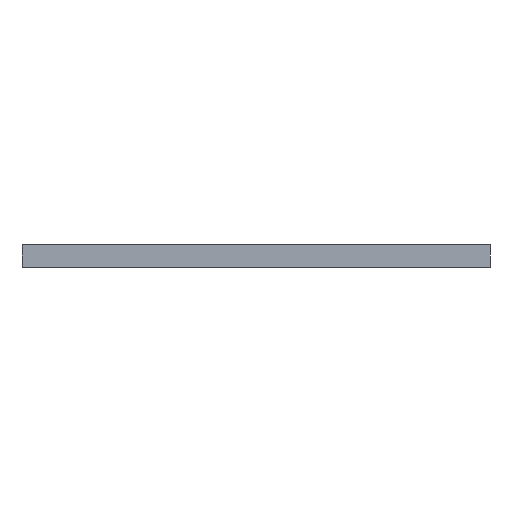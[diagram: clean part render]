
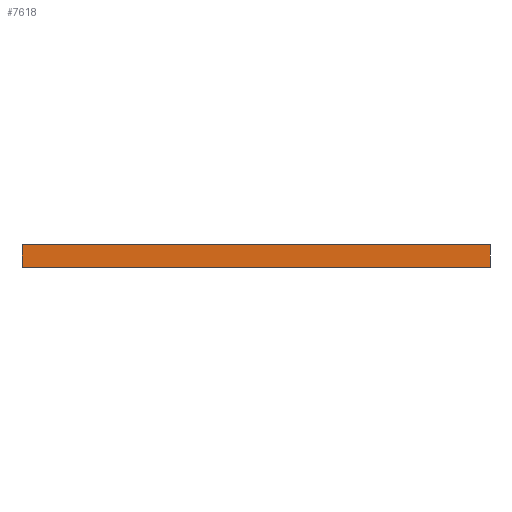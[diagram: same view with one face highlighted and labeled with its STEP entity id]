
A CAD part, front view. The second image highlights one B-rep face of the part: STEP entity #7618.
In plain terms, the highlighted planar face has unit normal (0, -1, 0).
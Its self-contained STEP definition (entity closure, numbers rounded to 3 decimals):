
#21 = EDGE_CURVE('',#22,#24,#26,.T.);
#22 = VERTEX_POINT('',#23);
#23 = CARTESIAN_POINT('',(6.74,14.71,
    0.01));
#24 = VERTEX_POINT('',#25);
#25 = CARTESIAN_POINT('',(6.74,14.71,1.6)
  );
#26 = SURFACE_CURVE('',#27,(#31,#43),.PCURVE_S1.);
#27 = LINE('',#28,#29);
#28 = CARTESIAN_POINT('',(6.74,14.71,
    0.01));
#29 = VECTOR('',#30,1.);
#30 = DIRECTION('',(0.,0.,1.));
#31 = PCURVE('',#32,#37);
#32 = PLANE('',#33);
#33 = AXIS2_PLACEMENT_3D('',#34,#35,#36);
#34 = CARTESIAN_POINT('',(6.74,14.71,
    0.01));
#35 = DIRECTION('',(-1.,0.,0.));
#36 = DIRECTION('',(0.,1.,0.));
#37 = DEFINITIONAL_REPRESENTATION('',(#38),#42);
#38 = LINE('',#39,#40);
#39 = CARTESIAN_POINT('',(0.,0.));
#40 = VECTOR('',#41,1.);
#41 = DIRECTION('',(0.,-1.));
#42 = ( GEOMETRIC_REPRESENTATION_CONTEXT(2) 
PARAMETRIC_REPRESENTATION_CONTEXT() REPRESENTATION_CONTEXT('2D SPACE',''
  ) );
#43 = PCURVE('',#44,#49);
#44 = PLANE('',#45);
#45 = AXIS2_PLACEMENT_3D('',#46,#47,#48);
#46 = CARTESIAN_POINT('',(40.14,14.71,
    0.01));
#47 = DIRECTION('',(0.,-1.,0.));
#48 = DIRECTION('',(-1.,0.,0.));
#49 = DEFINITIONAL_REPRESENTATION('',(#50),#54);
#50 = LINE('',#51,#52);
#51 = CARTESIAN_POINT('',(33.4,0.));
#52 = VECTOR('',#53,1.);
#53 = DIRECTION('',(0.,-1.));
#54 = ( GEOMETRIC_REPRESENTATION_CONTEXT(2) 
PARAMETRIC_REPRESENTATION_CONTEXT() REPRESENTATION_CONTEXT('2D SPACE',''
  ) );
#72 = PLANE('',#73);
#73 = AXIS2_PLACEMENT_3D('',#74,#75,#76);
#74 = CARTESIAN_POINT('',(6.74,14.71,1.6)
  );
#75 = DIRECTION('',(0.,0.,1.));
#76 = DIRECTION('',(1.,0.,-0.));
#126 = PLANE('',#127);
#127 = AXIS2_PLACEMENT_3D('',#128,#129,#130);
#128 = CARTESIAN_POINT('',(6.74,14.71,
    0.01));
#129 = DIRECTION('',(0.,0.,1.));
#130 = DIRECTION('',(1.,0.,-0.));
#7513 = PLANE('',#7514);
#7514 = AXIS2_PLACEMENT_3D('',#7515,#7516,#7517);
#7515 = CARTESIAN_POINT('',(40.14,16.41,
    0.01));
#7516 = DIRECTION('',(1.,0.,0.));
#7517 = DIRECTION('',(0.,-1.,0.));
#7553 = VERTEX_POINT('',#7554);
#7554 = CARTESIAN_POINT('',(40.14,14.71,
    1.6));
#7575 = EDGE_CURVE('',#7576,#7553,#7578,.T.);
#7576 = VERTEX_POINT('',#7577);
#7577 = CARTESIAN_POINT('',(40.14,14.71,
    0.01));
#7578 = SURFACE_CURVE('',#7579,(#7583,#7590),.PCURVE_S1.);
#7579 = LINE('',#7580,#7581);
#7580 = CARTESIAN_POINT('',(40.14,14.71,
    0.01));
#7581 = VECTOR('',#7582,1.);
#7582 = DIRECTION('',(0.,0.,1.));
#7583 = PCURVE('',#7513,#7584);
#7584 = DEFINITIONAL_REPRESENTATION('',(#7585),#7589);
#7585 = LINE('',#7586,#7587);
#7586 = CARTESIAN_POINT('',(1.7,0.));
#7587 = VECTOR('',#7588,1.);
#7588 = DIRECTION('',(0.,-1.));
#7589 = ( GEOMETRIC_REPRESENTATION_CONTEXT(2) 
PARAMETRIC_REPRESENTATION_CONTEXT() REPRESENTATION_CONTEXT('2D SPACE',''
  ) );
#7590 = PCURVE('',#44,#7591);
#7591 = DEFINITIONAL_REPRESENTATION('',(#7592),#7596);
#7592 = LINE('',#7593,#7594);
#7593 = CARTESIAN_POINT('',(0.,0.));
#7594 = VECTOR('',#7595,1.);
#7595 = DIRECTION('',(0.,-1.));
#7596 = ( GEOMETRIC_REPRESENTATION_CONTEXT(2) 
PARAMETRIC_REPRESENTATION_CONTEXT() REPRESENTATION_CONTEXT('2D SPACE',''
  ) );
#7618 = ADVANCED_FACE('',(#7619),#44,.T.);
#7619 = FACE_BOUND('',#7620,.T.);
#7620 = EDGE_LOOP('',(#7621,#7622,#7643,#7644));
#7621 = ORIENTED_EDGE('',*,*,#7575,.T.);
#7622 = ORIENTED_EDGE('',*,*,#7623,.T.);
#7623 = EDGE_CURVE('',#7553,#24,#7624,.T.);
#7624 = SURFACE_CURVE('',#7625,(#7629,#7636),.PCURVE_S1.);
#7625 = LINE('',#7626,#7627);
#7626 = CARTESIAN_POINT('',(40.14,14.71,
    1.6));
#7627 = VECTOR('',#7628,1.);
#7628 = DIRECTION('',(-1.,0.,0.));
#7629 = PCURVE('',#44,#7630);
#7630 = DEFINITIONAL_REPRESENTATION('',(#7631),#7635);
#7631 = LINE('',#7632,#7633);
#7632 = CARTESIAN_POINT('',(0.,-1.59));
#7633 = VECTOR('',#7634,1.);
#7634 = DIRECTION('',(1.,0.));
#7635 = ( GEOMETRIC_REPRESENTATION_CONTEXT(2) 
PARAMETRIC_REPRESENTATION_CONTEXT() REPRESENTATION_CONTEXT('2D SPACE',''
  ) );
#7636 = PCURVE('',#72,#7637);
#7637 = DEFINITIONAL_REPRESENTATION('',(#7638),#7642);
#7638 = LINE('',#7639,#7640);
#7639 = CARTESIAN_POINT('',(33.4,0.));
#7640 = VECTOR('',#7641,1.);
#7641 = DIRECTION('',(-1.,0.));
#7642 = ( GEOMETRIC_REPRESENTATION_CONTEXT(2) 
PARAMETRIC_REPRESENTATION_CONTEXT() REPRESENTATION_CONTEXT('2D SPACE',''
  ) );
#7643 = ORIENTED_EDGE('',*,*,#21,.F.);
#7644 = ORIENTED_EDGE('',*,*,#7645,.F.);
#7645 = EDGE_CURVE('',#7576,#22,#7646,.T.);
#7646 = SURFACE_CURVE('',#7647,(#7651,#7658),.PCURVE_S1.);
#7647 = LINE('',#7648,#7649);
#7648 = CARTESIAN_POINT('',(40.14,14.71,
    0.01));
#7649 = VECTOR('',#7650,1.);
#7650 = DIRECTION('',(-1.,0.,0.));
#7651 = PCURVE('',#44,#7652);
#7652 = DEFINITIONAL_REPRESENTATION('',(#7653),#7657);
#7653 = LINE('',#7654,#7655);
#7654 = CARTESIAN_POINT('',(0.,0.));
#7655 = VECTOR('',#7656,1.);
#7656 = DIRECTION('',(1.,0.));
#7657 = ( GEOMETRIC_REPRESENTATION_CONTEXT(2) 
PARAMETRIC_REPRESENTATION_CONTEXT() REPRESENTATION_CONTEXT('2D SPACE',''
  ) );
#7658 = PCURVE('',#126,#7659);
#7659 = DEFINITIONAL_REPRESENTATION('',(#7660),#7664);
#7660 = LINE('',#7661,#7662);
#7661 = CARTESIAN_POINT('',(33.4,0.));
#7662 = VECTOR('',#7663,1.);
#7663 = DIRECTION('',(-1.,0.));
#7664 = ( GEOMETRIC_REPRESENTATION_CONTEXT(2) 
PARAMETRIC_REPRESENTATION_CONTEXT() REPRESENTATION_CONTEXT('2D SPACE',''
  ) );
